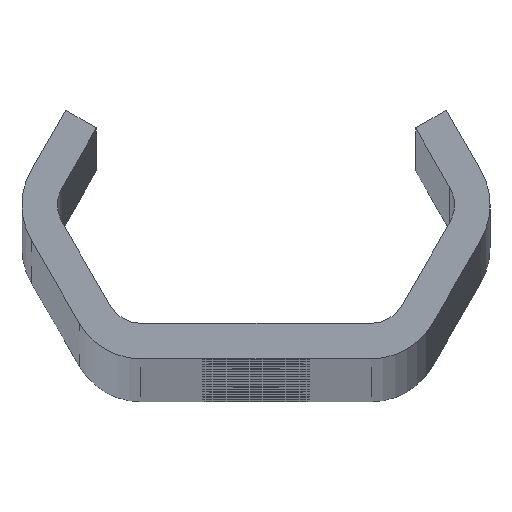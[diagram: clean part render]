
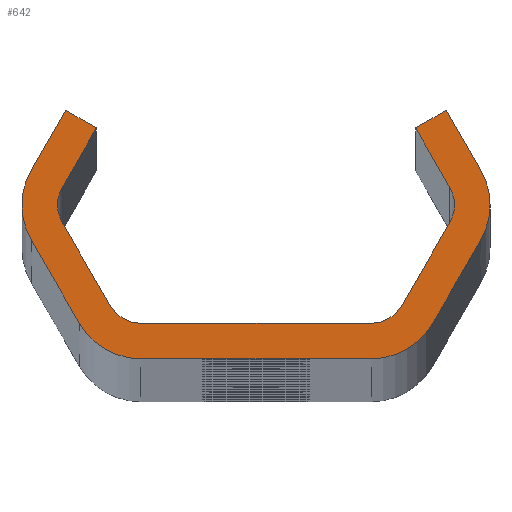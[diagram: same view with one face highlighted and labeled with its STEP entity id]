
A CAD part, top view. The second image highlights one B-rep face of the part: STEP entity #642.
In plain terms, the highlighted planar face has unit normal (0, 0, 1).
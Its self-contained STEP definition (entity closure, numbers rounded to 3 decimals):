
#642=ADVANCED_FACE('NONE',(#1778),#1779,.F.);
#1778=FACE_OUTER_BOUND('',#5754,.T.);
#1779=PLANE('',#5755);
#5754=EDGE_LOOP('',(#11652,#11653,#11654,#11655,#11656,#11657,#11658,#11659,#11660,#11661,#11662,#11663,#11664,#11665,#11666,#11667,#11668,#11669,#11670,#11671,#11672,#11673,#11674,#11675));
#5755=AXIS2_PLACEMENT_3D('',#11676,#11677,#11678);
#11652=ORIENTED_EDGE('',*,*,#15565,.T.);
#11653=ORIENTED_EDGE('',*,*,#15602,.T.);
#11654=ORIENTED_EDGE('',*,*,#15234,.T.);
#11655=ORIENTED_EDGE('',*,*,#15567,.T.);
#11656=ORIENTED_EDGE('',*,*,#15603,.T.);
#11657=ORIENTED_EDGE('',*,*,#15571,.T.);
#11658=ORIENTED_EDGE('',*,*,#15604,.T.);
#11659=ORIENTED_EDGE('',*,*,#15241,.T.);
#11660=ORIENTED_EDGE('',*,*,#15605,.T.);
#11661=ORIENTED_EDGE('',*,*,#14957,.T.);
#11662=ORIENTED_EDGE('',*,*,#15244,.T.);
#11663=ORIENTED_EDGE('',*,*,#15250,.T.);
#11664=ORIENTED_EDGE('',*,*,#15253,.T.);
#11665=ORIENTED_EDGE('',*,*,#15231,.T.);
#11666=ORIENTED_EDGE('',*,*,#15606,.T.);
#11667=ORIENTED_EDGE('',*,*,#15255,.T.);
#11668=ORIENTED_EDGE('',*,*,#15607,.T.);
#11669=ORIENTED_EDGE('',*,*,#15262,.T.);
#11670=ORIENTED_EDGE('',*,*,#15608,.T.);
#11671=ORIENTED_EDGE('',*,*,#15552,.T.);
#11672=ORIENTED_EDGE('',*,*,#15609,.T.);
#11673=ORIENTED_EDGE('',*,*,#14952,.T.);
#11674=ORIENTED_EDGE('',*,*,#15555,.T.);
#11675=ORIENTED_EDGE('',*,*,#15561,.T.);
#11676=CARTESIAN_POINT('',(0.0,0.0,2080.0));
#11677=DIRECTION('',(0.0,0.0,-1.0));
#11678=DIRECTION('',(0.0,-1.0,0.0));
#14952=EDGE_CURVE('NONE',#16664,#16668,#16670,.T.);
#14957=EDGE_CURVE('NONE',#16673,#16677,#16679,.T.);
#15231=EDGE_CURVE('NONE',#17172,#17170,#17173,.T.);
#15234=EDGE_CURVE('NONE',#17176,#17177,#17178,.T.);
#15241=EDGE_CURVE('NONE',#17190,#17188,#17191,.T.);
#15244=EDGE_CURVE('NONE',#16677,#17194,#17195,.T.);
#15250=EDGE_CURVE('NONE',#17194,#17202,#17204,.T.);
#15253=EDGE_CURVE('NONE',#17202,#17172,#17207,.T.);
#15255=EDGE_CURVE('NONE',#17209,#17210,#17211,.T.);
#15262=EDGE_CURVE('NONE',#17223,#17221,#17224,.T.);
#15552=EDGE_CURVE('NONE',#17762,#17760,#17763,.T.);
#15555=EDGE_CURVE('NONE',#16668,#17766,#17767,.T.);
#15561=EDGE_CURVE('NONE',#17766,#17774,#17776,.T.);
#15565=EDGE_CURVE('NONE',#17774,#17780,#17782,.T.);
#15567=EDGE_CURVE('NONE',#17177,#17784,#17785,.T.);
#15571=EDGE_CURVE('NONE',#17790,#17791,#17792,.T.);
#15602=EDGE_CURVE('NONE',#17780,#17176,#17825,.T.);
#15603=EDGE_CURVE('NONE',#17784,#17790,#17826,.T.);
#15604=EDGE_CURVE('NONE',#17791,#17190,#17827,.T.);
#15605=EDGE_CURVE('NONE',#17188,#16673,#17828,.T.);
#15606=EDGE_CURVE('NONE',#17170,#17209,#17829,.T.);
#15607=EDGE_CURVE('NONE',#17210,#17223,#17830,.T.);
#15608=EDGE_CURVE('NONE',#17221,#17762,#17831,.T.);
#15609=EDGE_CURVE('NONE',#17760,#16664,#17832,.T.);
#16664=VERTEX_POINT('',#19202);
#16668=VERTEX_POINT('NONE',#19207);
#16670=CIRCLE('',#19210,3.0);
#16673=VERTEX_POINT('',#19213);
#16677=VERTEX_POINT('NONE',#19218);
#16679=CIRCLE('',#19221,6.0);
#17170=VERTEX_POINT('NONE',#22214);
#17172=VERTEX_POINT('NONE',#22217);
#17173=CIRCLE('',#22218,3.0);
#17176=VERTEX_POINT('NONE',#22222);
#17177=VERTEX_POINT('NONE',#22223);
#17178=CIRCLE('',#22224,6.0);
#17188=VERTEX_POINT('NONE',#22237);
#17190=VERTEX_POINT('NONE',#22240);
#17191=LINE('',#22241,#22242);
#17194=VERTEX_POINT('NONE',#22246);
#17195=LINE('',#22247,#22248);
#17202=VERTEX_POINT('NONE',#22258);
#17204=LINE('',#22261,#22262);
#17207=LINE('',#22266,#22267);
#17209=VERTEX_POINT('NONE',#22269);
#17210=VERTEX_POINT('NONE',#22270);
#17211=LINE('',#22271,#22272);
#17221=VERTEX_POINT('NONE',#22286);
#17223=VERTEX_POINT('NONE',#22289);
#17224=LINE('',#22290,#22291);
#17760=VERTEX_POINT('NONE',#24229);
#17762=VERTEX_POINT('NONE',#24232);
#17763=LINE('',#24233,#24234);
#17766=VERTEX_POINT('NONE',#24238);
#17767=LINE('',#24239,#24240);
#17774=VERTEX_POINT('NONE',#24250);
#17776=LINE('',#24253,#24254);
#17780=VERTEX_POINT('NONE',#24259);
#17782=LINE('',#24262,#24263);
#17784=VERTEX_POINT('NONE',#24265);
#17785=LINE('',#24266,#24267);
#17790=VERTEX_POINT('NONE',#24274);
#17791=VERTEX_POINT('NONE',#24275);
#17792=LINE('',#24276,#24277);
#17825=CIRCLE('',#24313,6.0);
#17826=CIRCLE('',#24314,6.0);
#17827=CIRCLE('',#24315,6.0);
#17828=CIRCLE('',#24316,6.0);
#17829=CIRCLE('',#24317,3.0);
#17830=CIRCLE('',#24318,3.0);
#17831=CIRCLE('',#24319,3.0);
#17832=CIRCLE('',#24320,3.0);
#19202=CARTESIAN_POINT('',(-16.764,0.,2080.0));
#19207=CARTESIAN_POINT('',(-16.362,1.5,2080.0));
#19210=AXIS2_PLACEMENT_3D('',#28843,#28844,#28845);
#19213=CARTESIAN_POINT('',(19.764,0.,2080.0));
#19218=CARTESIAN_POINT('',(18.96,3.,2080.0));
#19221=AXIS2_PLACEMENT_3D('',#28851,#28852,#28853);
#22214=CARTESIAN_POINT('',(16.764,0.,2080.0));
#22217=CARTESIAN_POINT('',(16.362,1.5,2080.0));
#22218=AXIS2_PLACEMENT_3D('',#29122,#29123,#29124);
#22222=CARTESIAN_POINT('',(-19.764,0.,2080.0));
#22223=CARTESIAN_POINT('',(-18.96,-3.,2080.0));
#22224=AXIS2_PLACEMENT_3D('',#29126,#29127,#29128);
#22237=CARTESIAN_POINT('',(18.96,-3.,2080.0));
#22240=CARTESIAN_POINT('',(14.919,-10.,2080.0));
#22241=CARTESIAN_POINT('',(20.692,0.,2080.0));
#22242=VECTOR('',#29136,1000.0);
#22246=CARTESIAN_POINT('',(16.074,8.,2080.0));
#22247=CARTESIAN_POINT('',(16.074,8.,2080.0));
#22248=VECTOR('',#29138,1000.0);
#22258=CARTESIAN_POINT('',(13.475,6.5,2080.0));
#22261=CARTESIAN_POINT('',(13.475,6.5,2080.0));
#22262=VECTOR('',#29143,1000.0);
#22266=CARTESIAN_POINT('',(17.228,0.,2080.0));
#22267=VECTOR('',#29145,1000.0);
#22269=CARTESIAN_POINT('',(16.362,-1.5,2080.0));
#22270=CARTESIAN_POINT('',(12.321,-8.5,2080.0));
#22271=CARTESIAN_POINT('',(11.455,-10.0,2080.0));
#22272=VECTOR('',#29146,1000.0);
#22286=CARTESIAN_POINT('',(-9.723,-10.0,2080.0));
#22289=CARTESIAN_POINT('',(9.723,-10.0,2080.0));
#22290=CARTESIAN_POINT('',(-11.455,-10.0,2080.0));
#22291=VECTOR('',#29152,1000.0);
#24229=CARTESIAN_POINT('',(-16.362,-1.5,2080.0));
#24232=CARTESIAN_POINT('',(-12.321,-8.5,2080.0));
#24233=CARTESIAN_POINT('',(-17.228,0.,2080.0));
#24234=VECTOR('',#29465,1000.0);
#24238=CARTESIAN_POINT('',(-13.475,6.5,2080.0));
#24239=CARTESIAN_POINT('',(-13.475,6.5,2080.0));
#24240=VECTOR('',#29467,1000.0);
#24250=CARTESIAN_POINT('',(-16.074,8.,2080.0));
#24253=CARTESIAN_POINT('',(-13.475,6.5,2080.0));
#24254=VECTOR('',#29472,1000.0);
#24259=CARTESIAN_POINT('',(-18.96,3.,2080.0));
#24262=CARTESIAN_POINT('',(-16.074,8.,2080.0));
#24263=VECTOR('',#29475,1000.0);
#24265=CARTESIAN_POINT('',(-14.919,-10.,2080.0));
#24266=CARTESIAN_POINT('',(-20.692,0.,2080.0));
#24267=VECTOR('',#29476,1000.0);
#24274=CARTESIAN_POINT('',(-9.723,-13.0,2080.0));
#24275=CARTESIAN_POINT('',(9.723,-13.0,2080.0));
#24276=CARTESIAN_POINT('',(-13.187,-13.0,2080.0));
#24277=VECTOR('',#29479,1000.0);
#24313=AXIS2_PLACEMENT_3D('',#29561,#29562,#29563);
#24314=AXIS2_PLACEMENT_3D('',#29564,#29565,#29566);
#24315=AXIS2_PLACEMENT_3D('',#29567,#29568,#29569);
#24316=AXIS2_PLACEMENT_3D('',#29570,#29571,#29572);
#24317=AXIS2_PLACEMENT_3D('',#29573,#29574,#29575);
#24318=AXIS2_PLACEMENT_3D('',#29576,#29577,#29578);
#24319=AXIS2_PLACEMENT_3D('',#29579,#29580,#29581);
#24320=AXIS2_PLACEMENT_3D('',#29582,#29583,#29584);
#28843=CARTESIAN_POINT('',(-13.764,0.,2080.0));
#28844=DIRECTION('',(0.0,0.0,-1.0));
#28845=DIRECTION('',(-1.0,0.0,0.0));
#28851=CARTESIAN_POINT('',(13.764,0.,2080.0));
#28852=DIRECTION('',(0.0,0.0,1.0));
#28853=DIRECTION('',(-1.0,0.0,0.0));
#29122=CARTESIAN_POINT('',(13.764,0.,2080.0));
#29123=DIRECTION('',(0.0,0.0,-1.0));
#29124=DIRECTION('',(-1.0,0.0,0.0));
#29126=CARTESIAN_POINT('',(-13.764,0.,2080.0));
#29127=DIRECTION('',(0.0,0.0,1.0));
#29128=DIRECTION('',(-1.0,0.0,0.0));
#29136=DIRECTION('',(0.5,0.866,-0.0));
#29138=DIRECTION('',(-0.5,0.866,-0.0));
#29143=DIRECTION('',(-0.866,-0.5,-0.0));
#29145=DIRECTION('',(0.5,-0.866,-0.0));
#29146=DIRECTION('',(-0.5,-0.866,-0.0));
#29152=DIRECTION('',(-1.0,0.,-0.0));
#29465=DIRECTION('',(-0.5,0.866,-0.0));
#29467=DIRECTION('',(0.5,0.866,-0.0));
#29472=DIRECTION('',(-0.866,0.5,0.0));
#29475=DIRECTION('',(-0.5,-0.866,0.0));
#29476=DIRECTION('',(0.5,-0.866,0.0));
#29479=DIRECTION('',(1.0,0.0,0.0));
#29561=CARTESIAN_POINT('',(-13.764,0.,2080.0));
#29562=DIRECTION('',(0.0,0.0,1.0));
#29563=DIRECTION('',(-1.0,0.,0.0));
#29564=CARTESIAN_POINT('',(-9.723,-7.0,2080.0));
#29565=DIRECTION('',(0.0,0.0,1.0));
#29566=DIRECTION('',(-1.0,0.0,0.0));
#29567=CARTESIAN_POINT('',(9.723,-7.0,2080.0));
#29568=DIRECTION('',(0.0,0.0,1.0));
#29569=DIRECTION('',(-1.0,0.,0.0));
#29570=CARTESIAN_POINT('',(13.764,0.,2080.0));
#29571=DIRECTION('',(0.0,0.0,1.0));
#29572=DIRECTION('',(-1.0,0.0,0.0));
#29573=CARTESIAN_POINT('',(13.764,0.,2080.0));
#29574=DIRECTION('',(0.0,0.0,-1.0));
#29575=DIRECTION('',(-1.0,0.0,0.0));
#29576=CARTESIAN_POINT('',(9.723,-7.0,2080.0));
#29577=DIRECTION('',(0.0,0.0,-1.0));
#29578=DIRECTION('',(-1.0,0.0,0.0));
#29579=CARTESIAN_POINT('',(-9.723,-7.0,2080.0));
#29580=DIRECTION('',(0.0,0.0,-1.0));
#29581=DIRECTION('',(-1.0,0.0,0.0));
#29582=CARTESIAN_POINT('',(-13.764,0.,2080.0));
#29583=DIRECTION('',(0.0,0.0,-1.0));
#29584=DIRECTION('',(-1.0,0.0,0.0));
